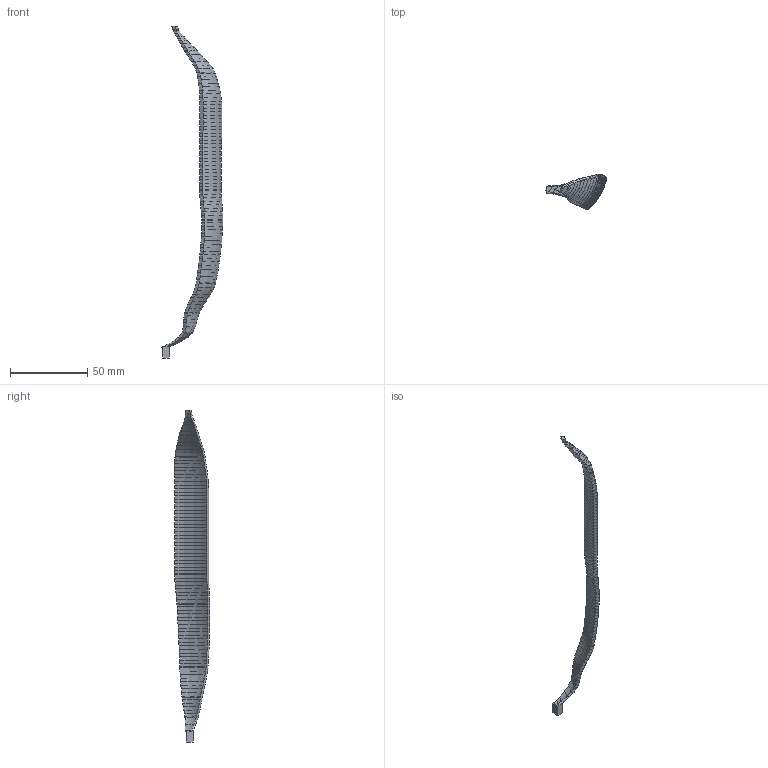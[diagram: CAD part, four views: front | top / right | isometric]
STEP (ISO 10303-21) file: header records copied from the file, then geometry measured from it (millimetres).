
FILE_DESCRIPTION(('Open CASCADE Model'),'2;1');
FILE_NAME('Open CASCADE Shape Model','2026-11-18T16:59:35',('Author'),( 'Open CASCADE'),'Open CASCADE STEP processor 7.9','Open CASCADE 7.9' ,'Unknown');
FILE_SCHEMA(('AUTOMOTIVE_DESIGN { 1 0 10303 214 1 1 1 1 }'));
Length unit declared in the file: millimetre
Products named in the file (1): Open CASCADE STEP translator 7.9 6
Bounding box: 39.65 x 22.75 x 214.6 mm (x, y, z)
Volume: 9459.1 mm3; surface area: 9709.6 mm2
Topology: 1 solids, 1 shells, 411 faces, 828 edges, 420 vertices
Faces by surface type: bspline 402, plane 9
Entity records: 33079 total; most frequent: CARTESIAN_POINT 18473, DIRECTION 1714, LINE 1694, VECTOR 1694, ORIENTED_EDGE 1656, PCURVE 1656, DEFINITIONAL_REPRESENTATION 1656, EDGE_CURVE 828
